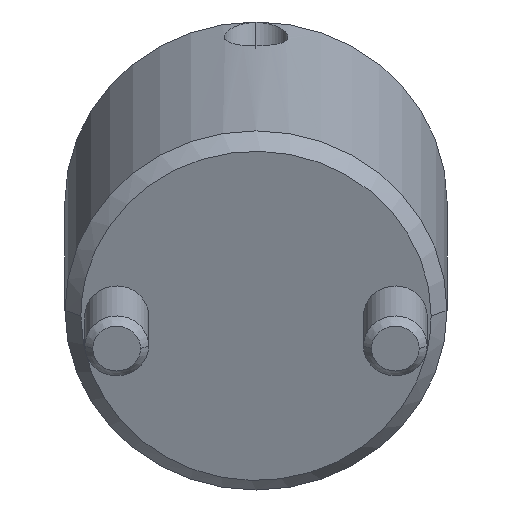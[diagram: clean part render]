
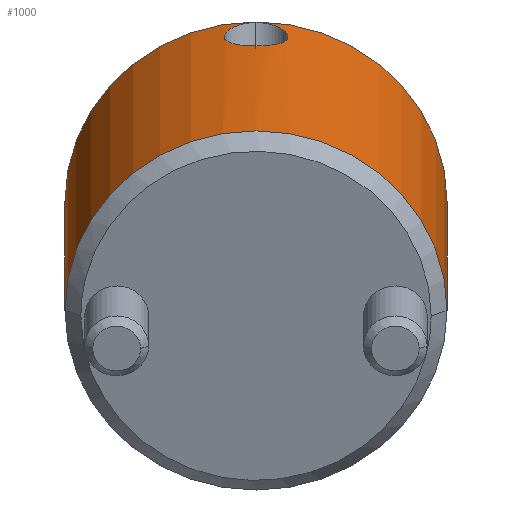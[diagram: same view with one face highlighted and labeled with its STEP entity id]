
A CAD part, front view. The second image highlights one B-rep face of the part: STEP entity #1000.
In plain terms, the highlighted cylindrical face has radius 12 mm (diameter 24 mm), a partial arc.
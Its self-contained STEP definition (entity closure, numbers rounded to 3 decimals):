
#778=CARTESIAN_POINT('Vertex',(0.,12.,1.)) ;
#781=CARTESIAN_POINT('Axis2P3D Location',(0.,0.,1.)) ;
#785=CARTESIAN_POINT('Vertex',(0.,-12.,1.)) ;
#925=CARTESIAN_POINT('Axis2P3D Location',(0.,0.,-1.1)) ;
#930=CARTESIAN_POINT('Line Origine',(0.,12.,-1.1)) ;
#934=CARTESIAN_POINT('Vertex',(0.,12.,21.)) ;
#937=CARTESIAN_POINT('Axis2P3D Location',(0.,0.,21.)) ;
#941=CARTESIAN_POINT('Vertex',(0.,-12.,21.)) ;
#944=CARTESIAN_POINT('Line Origine',(0.,-12.,-1.1)) ;
#956=CARTESIAN_POINT('Control Point',(12.,0.,20.893)) ;
#957=CARTESIAN_POINT('Control Point',(12.,0.268,20.893)) ;
#958=CARTESIAN_POINT('Control Point',(11.992,0.53,20.843)) ;
#959=CARTESIAN_POINT('Control Point',(11.978,0.783,20.744)) ;
#960=CARTESIAN_POINT('Control Point',(11.933,1.321,20.418)) ;
#961=CARTESIAN_POINT('Control Point',(11.879,1.716,19.904)) ;
#962=CARTESIAN_POINT('Control Point',(11.852,1.88,19.565)) ;
#963=CARTESIAN_POINT('Control Point',(11.824,2.049,18.918)) ;
#964=CARTESIAN_POINT('Control Point',(11.835,1.984,18.258)) ;
#965=CARTESIAN_POINT('Control Point',(11.848,1.909,17.977)) ;
#966=CARTESIAN_POINT('Control Point',(11.881,1.698,17.525)) ;
#967=CARTESIAN_POINT('Control Point',(11.923,1.368,17.161)) ;
#968=CARTESIAN_POINT('Control Point',(11.941,1.21,17.027)) ;
#969=CARTESIAN_POINT('Control Point',(11.97,0.887,16.819)) ;
#970=CARTESIAN_POINT('Control Point',(11.99,0.524,16.694)) ;
#971=CARTESIAN_POINT('Control Point',(11.997,0.351,16.655)) ;
#972=CARTESIAN_POINT('Control Point',(12.,0.177,16.636)) ;
#973=CARTESIAN_POINT('Control Point',(12.,0.,16.636)) ;
#974=CARTESIAN_POINT('Vertex',(12.,0.,20.893)) ;
#976=CARTESIAN_POINT('Vertex',(12.,0.,16.636)) ;
#980=CARTESIAN_POINT('Control Point',(12.,0.,16.636)) ;
#981=CARTESIAN_POINT('Control Point',(12.,-0.345,16.636)) ;
#982=CARTESIAN_POINT('Control Point',(11.988,-0.682,16.709)) ;
#983=CARTESIAN_POINT('Control Point',(11.963,-1.01,16.859)) ;
#984=CARTESIAN_POINT('Control Point',(11.902,-1.572,17.29)) ;
#985=CARTESIAN_POINT('Control Point',(11.849,-1.907,17.922)) ;
#986=CARTESIAN_POINT('Control Point',(11.831,-2.004,18.275)) ;
#987=CARTESIAN_POINT('Control Point',(11.824,-2.05,19.014)) ;
#988=CARTESIAN_POINT('Control Point',(11.863,-1.815,19.715)) ;
#989=CARTESIAN_POINT('Control Point',(11.893,-1.627,20.043)) ;
#990=CARTESIAN_POINT('Control Point',(11.944,-1.221,20.5)) ;
#991=CARTESIAN_POINT('Control Point',(11.983,-0.694,20.776)) ;
#992=CARTESIAN_POINT('Control Point',(11.994,-0.47,20.854)) ;
#993=CARTESIAN_POINT('Control Point',(12.,-0.237,20.893)) ;
#994=CARTESIAN_POINT('Control Point',(12.,0.,20.893)) ;
#782=DIRECTION('Axis2P3D Direction',(0.,0.,1.)) ;
#926=DIRECTION('Axis2P3D Direction',(0.,-0.,1.)) ;
#927=DIRECTION('Axis2P3D XDirection',(0.,-1.,0.)) ;
#931=DIRECTION('Vector Direction',(0.,0.,1.)) ;
#938=DIRECTION('Axis2P3D Direction',(0.,-0.,1.)) ;
#945=DIRECTION('Vector Direction',(0.,0.,1.)) ;
#783=AXIS2_PLACEMENT_3D('Circle Axis2P3D',#781,#782,$) ;
#928=AXIS2_PLACEMENT_3D('Cylinder Axis2P3D',#925,#926,#927) ;
#939=AXIS2_PLACEMENT_3D('Circle Axis2P3D',#937,#938,$) ;
#950=ORIENTED_EDGE('',*,*,#936,.F.) ;
#951=ORIENTED_EDGE('',*,*,#943,.T.) ;
#952=ORIENTED_EDGE('',*,*,#948,.T.) ;
#953=ORIENTED_EDGE('',*,*,#787,.F.) ;
#997=ORIENTED_EDGE('',*,*,#978,.T.) ;
#998=ORIENTED_EDGE('',*,*,#995,.T.) ;
#999=FACE_BOUND('',#996,.T.) ;
#932=VECTOR('Line Direction',#931,1.) ;
#946=VECTOR('Line Direction',#945,1.) ;
#1000=ADVANCED_FACE('MANIFOLD_SOLID_BREP #1102',(#954,#999),#929,.T.) ;
#955=B_SPLINE_CURVE_WITH_KNOTS('',5,(#956,#957,#958,#959,#960,#961,#962,#963,#964,#965,#966,#967,#968,#969,#970,#971,#972,#973),.UNSPECIFIED.,.F.,.U.,(6,3,3,3,3,6),(0.,1.901,4.48,6.478,7.949,9.197),.UNSPECIFIED.) ;
#979=B_SPLINE_CURVE_WITH_KNOTS('',5,(#980,#981,#982,#983,#984,#985,#986,#987,#988,#989,#990,#991,#992,#993,#994),.UNSPECIFIED.,.F.,.U.,(6,3,3,3,6),(0.,2.447,4.948,7.517,9.195),.UNSPECIFIED.) ;
#784=CIRCLE('generated circle',#783,12.) ;
#940=CIRCLE('generated circle',#939,12.) ;
#929=CYLINDRICAL_SURFACE('generated cylinder',#928,12.) ;
#787=EDGE_CURVE('',#779,#786,#784,.F.) ;
#936=EDGE_CURVE('',#935,#779,#933,.F.) ;
#943=EDGE_CURVE('',#935,#942,#940,.F.) ;
#948=EDGE_CURVE('',#942,#786,#947,.F.) ;
#978=EDGE_CURVE('',#975,#977,#955,.T.) ;
#995=EDGE_CURVE('',#977,#975,#979,.T.) ;
#949=EDGE_LOOP('',(#950,#951,#952,#953)) ;
#996=EDGE_LOOP('',(#997,#998)) ;
#954=FACE_OUTER_BOUND('',#949,.T.) ;
#933=LINE('Line',#930,#932) ;
#947=LINE('Line',#944,#946) ;
#779=VERTEX_POINT('',#778) ;
#786=VERTEX_POINT('',#785) ;
#935=VERTEX_POINT('',#934) ;
#942=VERTEX_POINT('',#941) ;
#975=VERTEX_POINT('',#974) ;
#977=VERTEX_POINT('',#976) ;
